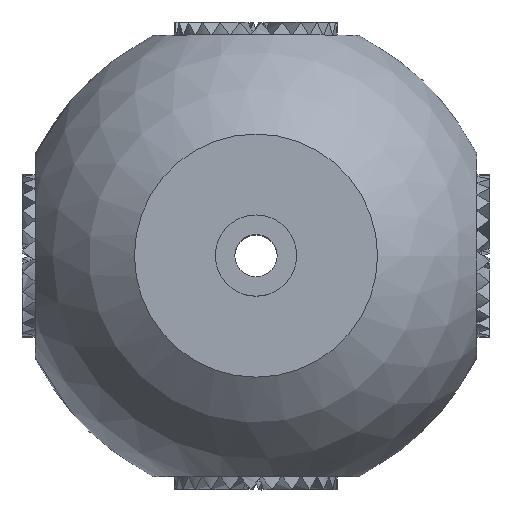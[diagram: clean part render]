
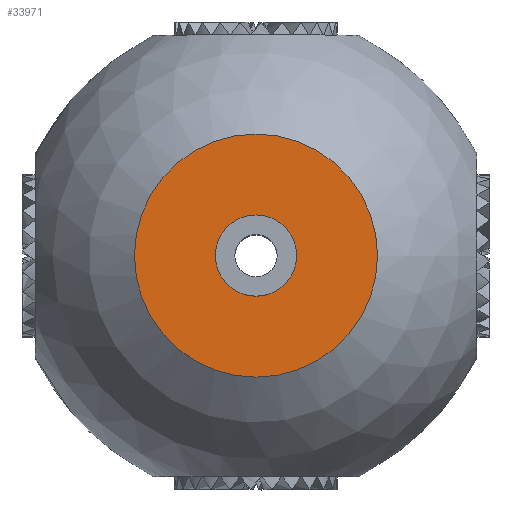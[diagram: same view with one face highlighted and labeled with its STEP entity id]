
A CAD part, top view. The second image highlights one B-rep face of the part: STEP entity #33971.
In plain terms, the highlighted planar face has unit normal (0, 0, 1).
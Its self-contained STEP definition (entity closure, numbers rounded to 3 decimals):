
#33 = SPHERICAL_SURFACE('',#34,15.);
#34 = AXIS2_PLACEMENT_3D('',#35,#36,#37);
#35 = CARTESIAN_POINT('',(0.,0.,0.));
#36 = DIRECTION('',(0.,0.,1.));
#37 = DIRECTION('',(1.,0.,0.));
#144 = VERTEX_POINT('',#145);
#145 = CARTESIAN_POINT('',(7.483,0.,13.));
#167 = EDGE_CURVE('',#144,#144,#168,.T.);
#168 = SURFACE_CURVE('',#169,(#174,#181),.PCURVE_S1.);
#169 = CIRCLE('',#170,7.483);
#170 = AXIS2_PLACEMENT_3D('',#171,#172,#173);
#171 = CARTESIAN_POINT('',(0.,0.,13.));
#172 = DIRECTION('',(0.,0.,1.));
#173 = DIRECTION('',(1.,0.,-0.));
#174 = PCURVE('',#33,#175);
#175 = DEFINITIONAL_REPRESENTATION('',(#176),#180);
#176 = LINE('',#177,#178);
#177 = CARTESIAN_POINT('',(0.,1.048));
#178 = VECTOR('',#179,1.);
#179 = DIRECTION('',(1.,0.));
#180 = ( GEOMETRIC_REPRESENTATION_CONTEXT(2) 
PARAMETRIC_REPRESENTATION_CONTEXT() REPRESENTATION_CONTEXT('2D SPACE',''
  ) );
#181 = PCURVE('',#182,#187);
#182 = PLANE('',#183);
#183 = AXIS2_PLACEMENT_3D('',#184,#185,#186);
#184 = CARTESIAN_POINT('',(-30.,-30.,13.));
#185 = DIRECTION('',(0.,0.,1.));
#186 = DIRECTION('',(1.,0.,0.));
#187 = DEFINITIONAL_REPRESENTATION('',(#188),#192);
#188 = CIRCLE('',#189,7.483);
#189 = AXIS2_PLACEMENT_2D('',#190,#191);
#190 = CARTESIAN_POINT('',(30.,30.));
#191 = DIRECTION('',(1.,0.));
#192 = ( GEOMETRIC_REPRESENTATION_CONTEXT(2) 
PARAMETRIC_REPRESENTATION_CONTEXT() REPRESENTATION_CONTEXT('2D SPACE',''
  ) );
#33753 = CYLINDRICAL_SURFACE('',#33754,2.5);
#33754 = AXIS2_PLACEMENT_3D('',#33755,#33756,#33757);
#33755 = CARTESIAN_POINT('',(0.,0.,13.));
#33756 = DIRECTION('',(-0.,-0.,-1.));
#33757 = DIRECTION('',(1.,0.,0.));
#33772 = VERTEX_POINT('',#33773);
#33773 = CARTESIAN_POINT('',(2.5,0.,13.));
#33796 = EDGE_CURVE('',#33772,#33772,#33797,.T.);
#33797 = SURFACE_CURVE('',#33798,(#33803,#33810),.PCURVE_S1.);
#33798 = CIRCLE('',#33799,2.5);
#33799 = AXIS2_PLACEMENT_3D('',#33800,#33801,#33802);
#33800 = CARTESIAN_POINT('',(0.,0.,13.));
#33801 = DIRECTION('',(0.,0.,1.));
#33802 = DIRECTION('',(1.,0.,0.));
#33803 = PCURVE('',#33753,#33804);
#33804 = DEFINITIONAL_REPRESENTATION('',(#33805),#33809);
#33805 = LINE('',#33806,#33807);
#33806 = CARTESIAN_POINT('',(-0.,0.));
#33807 = VECTOR('',#33808,1.);
#33808 = DIRECTION('',(-1.,0.));
#33809 = ( GEOMETRIC_REPRESENTATION_CONTEXT(2) 
PARAMETRIC_REPRESENTATION_CONTEXT() REPRESENTATION_CONTEXT('2D SPACE',''
  ) );
#33810 = PCURVE('',#182,#33811);
#33811 = DEFINITIONAL_REPRESENTATION('',(#33812),#33816);
#33812 = CIRCLE('',#33813,2.5);
#33813 = AXIS2_PLACEMENT_2D('',#33814,#33815);
#33814 = CARTESIAN_POINT('',(30.,30.));
#33815 = DIRECTION('',(1.,0.));
#33816 = ( GEOMETRIC_REPRESENTATION_CONTEXT(2) 
PARAMETRIC_REPRESENTATION_CONTEXT() REPRESENTATION_CONTEXT('2D SPACE',''
  ) );
#33971 = ADVANCED_FACE('',(#33972,#33975),#182,.T.);
#33972 = FACE_BOUND('',#33973,.T.);
#33973 = EDGE_LOOP('',(#33974));
#33974 = ORIENTED_EDGE('',*,*,#167,.T.);
#33975 = FACE_BOUND('',#33976,.T.);
#33976 = EDGE_LOOP('',(#33977));
#33977 = ORIENTED_EDGE('',*,*,#33796,.F.);
